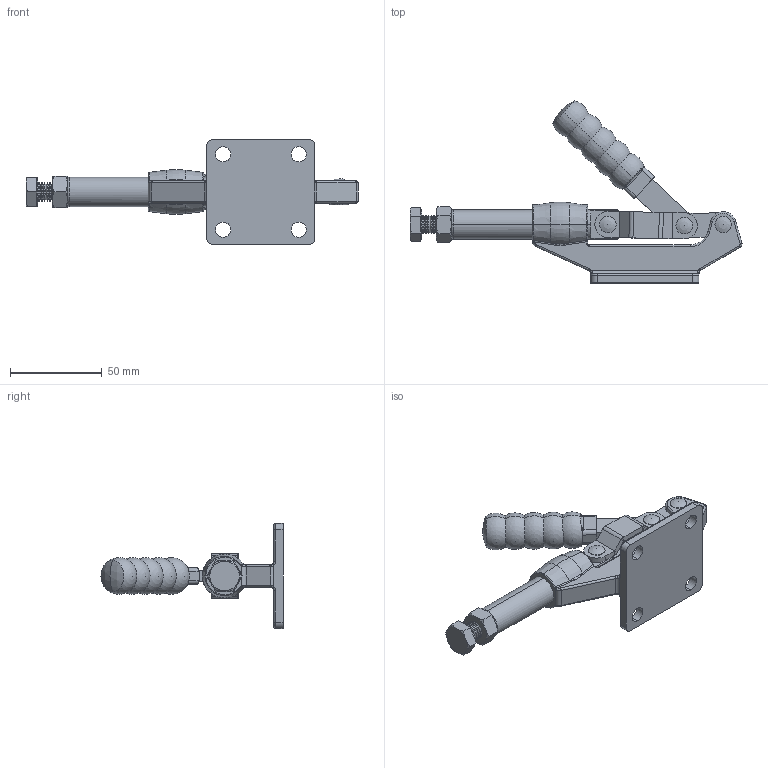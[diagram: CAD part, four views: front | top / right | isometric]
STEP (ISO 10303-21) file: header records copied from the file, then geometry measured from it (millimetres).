
FILE_DESCRIPTION (( 'STEP AP214' ), '1' );
FILE_NAME ('ISK-SL2000.STEP', '2015-07-24T08:19:00', ( '' ), ( '' ), 'SwSTEP 2.0', 'SolidWorks 2015', '' );
FILE_SCHEMA (( 'AUTOMOTIVE_DESIGN' ));
Length unit declared in the file: millimetre
Products named in the file (9): Rivet_Φ6×12; Link; Handle; Arm; Base; ISK-SL2000; Grip; hexagon nut_2_jis_JIS B 1181 Hexagon nut - Class 2 Finished M10 --N; continuous thread hexagon head bolt_a_jis_JIS B 1180 Continuous thread hexagon head bolt A M10 x 40 --S
Assembly tree (11 placements, depth 2):
  ISK-SL2000
    Base
    Arm
    Handle
    Link  x2
    Rivet_Φ6×12  x3
    continuous thread hexagon head bolt_a_jis_JIS B 1180 Continuous thread hexagon head bolt A M10 x 40 --S
    hexagon nut_2_jis_JIS B 1181 Hexagon nut - Class 2 Finished M10 --N
    Grip
Bounding box: 180.58 x 99.06 x 57.2 mm (x, y, z)
Volume: 85864.2 mm3; surface area: 42281.1 mm2
Topology: 11 solids, 11 shells, 556 faces, 1351 edges, 805 vertices
Faces by surface type: cylinder 178, plane 142, cone 140, torus 49, bspline 32, sphere 15
Entity records: 15812 total; most frequent: CARTESIAN_POINT 3781, DIRECTION 2654, ORIENTED_EDGE 2356, EDGE_CURVE 1178, AXIS2_PLACEMENT_3D 1109, VERTEX_POINT 710, CIRCLE 634, EDGE_LOOP 528
